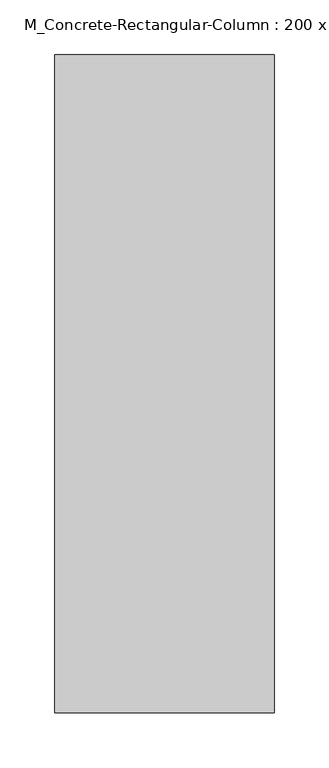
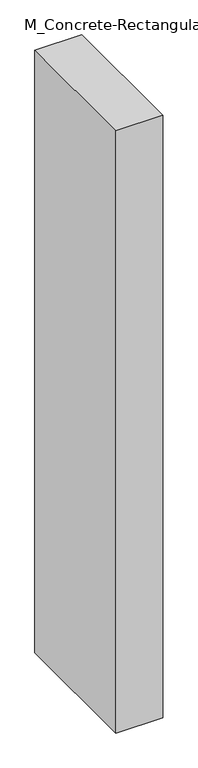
"""IFC4 building model written with IfcOpenShell, lengths in millimetres: column geometry, M_Concrete-Rectangular-Column : 200 x 600mm 4."""

from ifc_helpers import new_model, si_unit, frame, origin, place, context, project, spatial, polyline, outline, extrude, source, transform, mapped, element, save


def m_concrete_rectangular_column_200_x_600mm_4_bdcf31bf(model_context):
    return source(origin(), model_context, "Body", "SweptSolid", [
        extrude(outline(polyline([(100.0, 300.0), (100.0, -300.0), (-100.0, -300.0), (-100.0, 300.0), (100.0, 300.0)])), frame((0.0, 0.0, -1920.0), z_axis=(0.0, 0.0, 1.0), x_axis=(1.0, 0.0, 0.0)), (0.0, 0.0, 1.0), 2720.0),
    ])


if __name__ == "__main__":
    model = new_model("IFC4")
    model_context = context("Model", 3, world=origin())
    ifc_project = project(units=[si_unit("LENGTHUNIT", "METRE", prefix="MILLI")], contexts=[model_context])
    site = spatial("IfcSite", under=ifc_project)
    building = spatial("IfcBuilding", under=site)
    placement = place(None, origin())
    m_concrete_rectangular_column_200_x_600mm_4_shape = m_concrete_rectangular_column_200_x_600mm_4_bdcf31bf(model_context)
    element("IfcColumn", 1, ObjectType="M_Concrete-Rectangular-Column : 200 x 600mm 4", at=placement, inside=building, context=model_context, shape_type="MappedRepresentation", body=[
        mapped(m_concrete_rectangular_column_200_x_600mm_4_shape, transform((0.0, 0.0, 0.0), x_axis=(1.0, 0.0, 0.0), y_axis=(0.0, 1.0, 0.0), z_axis=(0.0, 0.0, 1.0))),
    ])
    save(model, "model.ifc")
